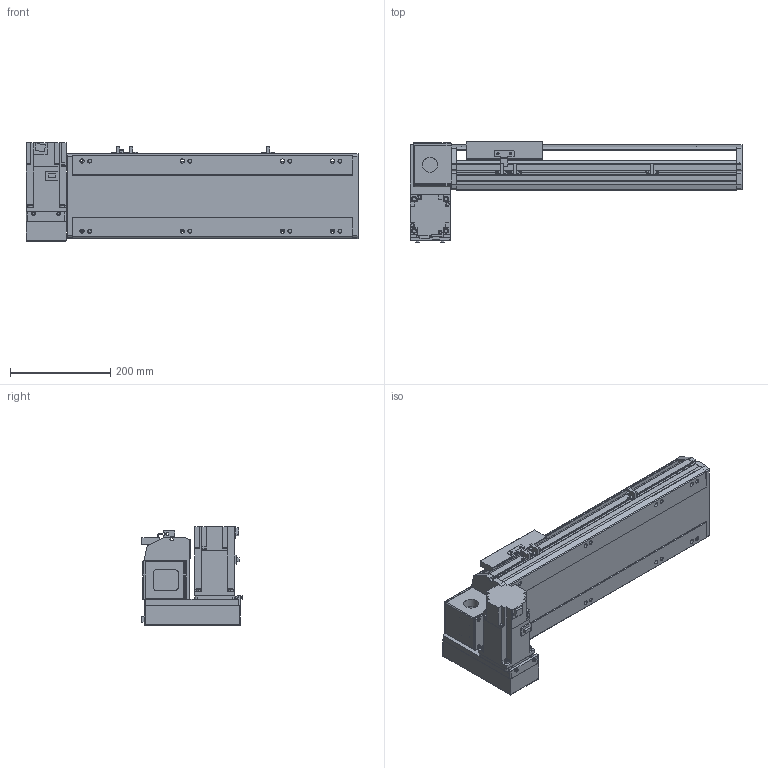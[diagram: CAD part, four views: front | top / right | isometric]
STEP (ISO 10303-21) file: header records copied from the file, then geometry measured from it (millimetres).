
FILE_DESCRIPTION( ( 'STEP AP214' ), '1' );
FILE_NAME( 'x:/temp/worker_4/temp/exporttempdir_2248_331_cySRv/format_0/PBS170-P40-S300-LD-T75-C1-N(0).stp', '2022-06-07T07:50:14', ( 'License CC BY-ND 4.0' ), ( 'CADENAS' ), ' ', 'PARTsolutions', ' ' );
FILE_SCHEMA( ( 'AUTOMOTIVE_DESIGN { 1 0 10303 214 1 1 1 1 }' ) );
Length unit declared in the file: millimetre
Products named in the file (7): PBS170-P40-S300-LD-T75-C1-N(0); _PBS170-S300()_body; _PBS170T-LD_motors; _T75-p1; _PBS170_sliser; _PBS170_plant; _PBS170_sensor
Assembly tree (8 placements, depth 2):
  PBS170-P40-S300-LD-T75-C1-N(0)
    _PBS170-S300()_body
    _PBS170T-LD_motors
    _T75-p1
    _PBS170_sliser
    _PBS170_plant
    _PBS170_sensor  x3
Bounding box: 663 x 201 x 197.3 mm (x, y, z)
Volume: 6001633.9 mm3; surface area: 838828 mm2
Topology: 8 solids, 8 shells, 1018 faces, 2715 edges, 1770 vertices
Faces by surface type: plane 663, cylinder 307, cone 38, sphere 8, torus 2
Full cylindrical faces by diameter (mm): 3.242 x4, 4 x2, 4.4 x4, 4.5 x6, 4.917 x4, 6 x9, 6.647 x16, 7 x2, 7.5 x4, 8 x8, 8.5 x8, 10 x4, 10.5 x8, 11 x2, 30 x2, 40 x1, 70 x1
Entity records: 37172 total; most frequent: CARTESIAN_POINT 5549, DIRECTION 5020, ORIENTED_EDGE 4788, EDGE_CURVE 2394, AXIS2_PLACEMENT_3D 1717, VERTEX_POINT 1634, LINE 1586, VECTOR 1586
